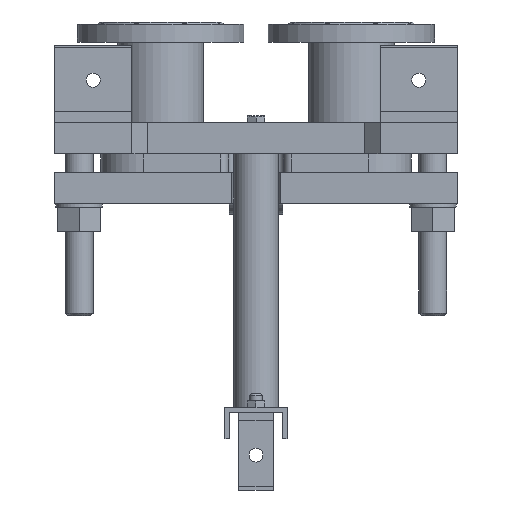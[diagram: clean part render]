
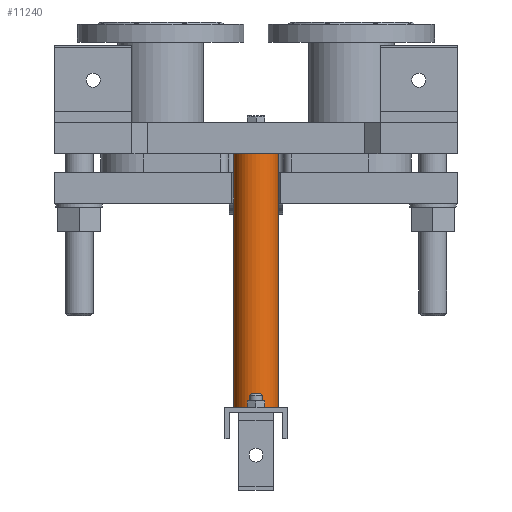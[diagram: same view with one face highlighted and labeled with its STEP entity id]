
A CAD part, front view. The second image highlights one B-rep face of the part: STEP entity #11240.
In plain terms, the highlighted cylindrical face has radius 28.5 mm (diameter 57 mm), a full revolution.
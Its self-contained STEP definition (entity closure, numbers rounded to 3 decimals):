
#781=LINE('',#22043,#1754);
#1754=VECTOR('',#14569,28.5);
#2333=CYLINDRICAL_SURFACE('',#12263,28.5);
#2995=FACE_OUTER_BOUND('',#3777,.T.);
#3777=EDGE_LOOP('',(#9013,#9014,#9015,#9016));
#4462=CIRCLE('',#12264,28.5);
#4463=CIRCLE('',#12265,28.5);
#5286=VERTEX_POINT('',#22040);
#5287=VERTEX_POINT('',#22042);
#6596=EDGE_CURVE('',#5286,#5286,#4462,.T.);
#6597=EDGE_CURVE('',#5286,#5287,#781,.T.);
#6598=EDGE_CURVE('',#5287,#5287,#4463,.T.);
#9013=ORIENTED_EDGE('',*,*,#6596,.F.);
#9014=ORIENTED_EDGE('',*,*,#6597,.T.);
#9015=ORIENTED_EDGE('',*,*,#6598,.T.);
#9016=ORIENTED_EDGE('',*,*,#6597,.F.);
#11240=ADVANCED_FACE('',(#2995),#2333,.T.);
#12263=AXIS2_PLACEMENT_3D('',#22039,#14565,#14566);
#12264=AXIS2_PLACEMENT_3D('',#22041,#14567,#14568);
#12265=AXIS2_PLACEMENT_3D('',#22044,#14570,#14571);
#14565=DIRECTION('center_axis',(0.,0.,
-1.));
#14566=DIRECTION('ref_axis',(-1.,0.,0.));
#14567=DIRECTION('center_axis',(0.,0.,
-1.));
#14568=DIRECTION('ref_axis',(-1.,0.,0.));
#14569=DIRECTION('',(0.,0.,1.));
#14570=DIRECTION('center_axis',(0.,0.,
-1.));
#14571=DIRECTION('ref_axis',(-1.,0.,0.));
#22039=CARTESIAN_POINT('Origin',(0.,215.,0.));
#22040=CARTESIAN_POINT('',(28.5,215.,-327.5));
#22041=CARTESIAN_POINT('Origin',(0.,215.,-327.5));
#22042=CARTESIAN_POINT('',(28.5,215.,0.));
#22043=CARTESIAN_POINT('',(28.5,215.,0.));
#22044=CARTESIAN_POINT('Origin',(0.,215.,0.));
